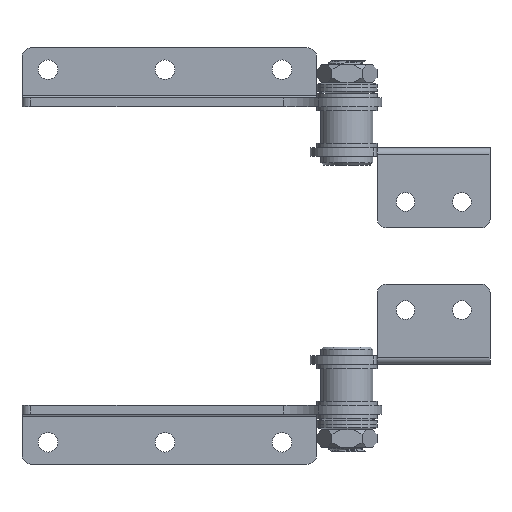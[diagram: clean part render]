
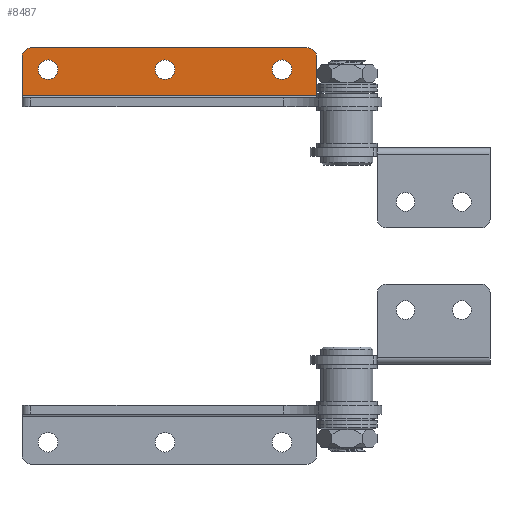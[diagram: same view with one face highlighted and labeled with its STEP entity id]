
A CAD part, front view. The second image highlights one B-rep face of the part: STEP entity #8487.
In plain terms, the highlighted planar face has unit normal (0, -1, 0).
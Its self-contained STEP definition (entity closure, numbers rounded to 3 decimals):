
#83 = DIRECTION ( 'NONE',  ( 0., 1., 0. ) ) ;
#104 = LINE ( 'NONE', #6759, #7544 ) ;
#119 = EDGE_CURVE ( 'NONE', #21223, #14027, #104, .T. ) ;
#329 = VERTEX_POINT ( 'NONE', #7403 ) ;
#347 = DIRECTION ( 'NONE',  ( 0., 0., -1. ) ) ;
#390 = DIRECTION ( 'NONE',  ( 0., 0., -1. ) ) ;
#412 = AXIS2_PLACEMENT_3D ( 'NONE', #10323, #83, #11766 ) ;
#627 = ORIENTED_EDGE ( 'NONE', *, *, #3046, .F. ) ;
#887 = EDGE_LOOP ( 'NONE', ( #18347, #21267 ) ) ;
#1093 = ORIENTED_EDGE ( 'NONE', *, *, #6389, .F. ) ;
#1119 = VERTEX_POINT ( 'NONE', #14659 ) ;
#1426 = VERTEX_POINT ( 'NONE', #20943 ) ;
#1623 = VERTEX_POINT ( 'NONE', #13610 ) ;
#1708 = DIRECTION ( 'NONE',  ( 0., -1., 0. ) ) ;
#1728 = CIRCLE ( 'NONE', #19146, 2.25 ) ;
#2241 = DIRECTION ( 'NONE',  ( 0., 1., 0. ) ) ;
#2460 = AXIS2_PLACEMENT_3D ( 'NONE', #8372, #6926, #13389 ) ;
#2605 = EDGE_CURVE ( 'NONE', #20611, #1119, #21201, .T. ) ;
#3046 = EDGE_CURVE ( 'NONE', #329, #1623, #1728, .T. ) ;
#3093 = DIRECTION ( 'NONE',  ( 0., 0., -1. ) ) ;
#3138 = FACE_BOUND ( 'NONE', #7831, .T. ) ;
#3449 = FACE_BOUND ( 'NONE', #19935, .T. ) ;
#3554 = CIRCLE ( 'NONE', #412, 2. ) ;
#3677 = CARTESIAN_POINT ( 'NONE',  ( -15., 8., 68. ) ) ;
#3920 = ORIENTED_EDGE ( 'NONE', *, *, #10171, .F. ) ;
#3941 = CARTESIAN_POINT ( 'NONE',  ( -73., 8., 73. ) ) ;
#4031 = CARTESIAN_POINT ( 'NONE',  ( -75., 8., 62. ) ) ;
#4142 = CARTESIAN_POINT ( 'NONE',  ( -69., 8., 65.75 ) ) ;
#4860 = FACE_OUTER_BOUND ( 'NONE', #17581, .T. ) ;
#5081 = AXIS2_PLACEMENT_3D ( 'NONE', #3677, #13119, #19766 ) ;
#5173 = FACE_BOUND ( 'NONE', #887, .T. ) ;
#5438 = DIRECTION ( 'NONE',  ( -1., 0., 0. ) ) ;
#5730 = CARTESIAN_POINT ( 'NONE',  ( -73., 8., 71. ) ) ;
#6280 = EDGE_CURVE ( 'NONE', #1426, #17213, #16728, .T. ) ;
#6389 = EDGE_CURVE ( 'NONE', #20611, #7780, #10096, .T. ) ;
#6396 = CARTESIAN_POINT ( 'NONE',  ( -75., 8., 73. ) ) ;
#6453 = CARTESIAN_POINT ( 'NONE',  ( -42., 8., 65.75 ) ) ;
#6759 = CARTESIAN_POINT ( 'NONE',  ( -7., 8., 59.5 ) ) ;
#6926 = DIRECTION ( 'NONE',  ( 0., -1., 0. ) ) ;
#7317 = DIRECTION ( 'NONE',  ( 0., -1., 0. ) ) ;
#7403 = CARTESIAN_POINT ( 'NONE',  ( -15., 8., 65.75 ) ) ;
#7544 = VECTOR ( 'NONE', #20074, 1000. ) ;
#7780 = VERTEX_POINT ( 'NONE', #3941 ) ;
#7831 = EDGE_LOOP ( 'NONE', ( #21370, #15577 ) ) ;
#8372 = CARTESIAN_POINT ( 'NONE',  ( 0., 8., 50. ) ) ;
#8479 = PLANE ( 'NONE',  #2460 ) ;
#8487 = ADVANCED_FACE ( 'NONE', ( #3449, #5173, #3138, #4860 ), #8479, .T. ) ;
#8946 = EDGE_CURVE ( 'NONE', #21321, #10255, #16080, .T. ) ;
#9891 = CARTESIAN_POINT ( 'NONE',  ( -75., 8., 71. ) ) ;
#10096 = CIRCLE ( 'NONE', #17421, 2. ) ;
#10171 = EDGE_CURVE ( 'NONE', #21223, #1119, #12011, .T. ) ;
#10255 = VERTEX_POINT ( 'NONE', #20631 ) ;
#10323 = CARTESIAN_POINT ( 'NONE',  ( -9., 8., 71. ) ) ;
#10432 = CARTESIAN_POINT ( 'NONE',  ( -42., 8., 68. ) ) ;
#10744 = VERTEX_POINT ( 'NONE', #15500 ) ;
#10885 = VECTOR ( 'NONE', #16448, 1000. ) ;
#11058 = CIRCLE ( 'NONE', #11775, 2.25 ) ;
#11766 = DIRECTION ( 'NONE',  ( 0., 0., 1. ) ) ;
#11775 = AXIS2_PLACEMENT_3D ( 'NONE', #10432, #18411, #21576 ) ;
#12011 = LINE ( 'NONE', #4031, #20253 ) ;
#12396 = DIRECTION ( 'NONE',  ( 0., 0., 1. ) ) ;
#12772 = DIRECTION ( 'NONE',  ( 0., 0., -1. ) ) ;
#12927 = EDGE_CURVE ( 'NONE', #10744, #14027, #3554, .T. ) ;
#13119 = DIRECTION ( 'NONE',  ( 0., -1., 0. ) ) ;
#13149 = ORIENTED_EDGE ( 'NONE', *, *, #119, .T. ) ;
#13195 = EDGE_CURVE ( 'NONE', #10744, #7780, #14576, .T. ) ;
#13226 = VECTOR ( 'NONE', #3093, 1000. ) ;
#13389 = DIRECTION ( 'NONE',  ( 0., 0., 1. ) ) ;
#13610 = CARTESIAN_POINT ( 'NONE',  ( -15., 8., 70.25 ) ) ;
#13970 = DIRECTION ( 'NONE',  ( 0., 0., -1. ) ) ;
#14027 = VERTEX_POINT ( 'NONE', #14522 ) ;
#14300 = CARTESIAN_POINT ( 'NONE',  ( -69., 8., 68. ) ) ;
#14519 = AXIS2_PLACEMENT_3D ( 'NONE', #14300, #20849, #12772 ) ;
#14522 = CARTESIAN_POINT ( 'NONE',  ( -7., 8., 71. ) ) ;
#14576 = LINE ( 'NONE', #6396, #10885 ) ;
#14659 = CARTESIAN_POINT ( 'NONE',  ( -75., 8., 62. ) ) ;
#14685 = AXIS2_PLACEMENT_3D ( 'NONE', #17156, #19005, #347 ) ;
#15456 = CARTESIAN_POINT ( 'NONE',  ( -69., 8., 68. ) ) ;
#15500 = CARTESIAN_POINT ( 'NONE',  ( -9., 8., 73. ) ) ;
#15577 = ORIENTED_EDGE ( 'NONE', *, *, #6280, .F. ) ;
#16080 = CIRCLE ( 'NONE', #14685, 2.25 ) ;
#16276 = CIRCLE ( 'NONE', #14519, 2.25 ) ;
#16448 = DIRECTION ( 'NONE',  ( -1., 0., 0. ) ) ;
#16728 = CIRCLE ( 'NONE', #19507, 2.25 ) ;
#16946 = CIRCLE ( 'NONE', #5081, 2.25 ) ;
#17156 = CARTESIAN_POINT ( 'NONE',  ( -42., 8., 68. ) ) ;
#17169 = EDGE_CURVE ( 'NONE', #17213, #1426, #16276, .T. ) ;
#17213 = VERTEX_POINT ( 'NONE', #4142 ) ;
#17421 = AXIS2_PLACEMENT_3D ( 'NONE', #5730, #2241, #12396 ) ;
#17581 = EDGE_LOOP ( 'NONE', ( #19608, #1093, #20950, #3920, #13149, #20416 ) ) ;
#17937 = CARTESIAN_POINT ( 'NONE',  ( -75., 8., 59.5 ) ) ;
#17998 = EDGE_CURVE ( 'NONE', #10255, #21321, #11058, .T. ) ;
#18347 = ORIENTED_EDGE ( 'NONE', *, *, #8946, .F. ) ;
#18411 = DIRECTION ( 'NONE',  ( 0., -1., 0. ) ) ;
#18999 = CARTESIAN_POINT ( 'NONE',  ( -7., 8., 62. ) ) ;
#19005 = DIRECTION ( 'NONE',  ( 0., -1., 0. ) ) ;
#19146 = AXIS2_PLACEMENT_3D ( 'NONE', #19505, #7317, #13970 ) ;
#19297 = EDGE_CURVE ( 'NONE', #1623, #329, #16946, .T. ) ;
#19505 = CARTESIAN_POINT ( 'NONE',  ( -15., 8., 68. ) ) ;
#19507 = AXIS2_PLACEMENT_3D ( 'NONE', #15456, #1708, #390 ) ;
#19608 = ORIENTED_EDGE ( 'NONE', *, *, #13195, .T. ) ;
#19766 = DIRECTION ( 'NONE',  ( 0., 0., -1. ) ) ;
#19797 = ORIENTED_EDGE ( 'NONE', *, *, #19297, .F. ) ;
#19935 = EDGE_LOOP ( 'NONE', ( #627, #19797 ) ) ;
#20074 = DIRECTION ( 'NONE',  ( 0., 0., 1. ) ) ;
#20253 = VECTOR ( 'NONE', #5438, 1000. ) ;
#20416 = ORIENTED_EDGE ( 'NONE', *, *, #12927, .F. ) ;
#20611 = VERTEX_POINT ( 'NONE', #9891 ) ;
#20631 = CARTESIAN_POINT ( 'NONE',  ( -42., 8., 70.25 ) ) ;
#20849 = DIRECTION ( 'NONE',  ( 0., -1., 0. ) ) ;
#20943 = CARTESIAN_POINT ( 'NONE',  ( -69., 8., 70.25 ) ) ;
#20950 = ORIENTED_EDGE ( 'NONE', *, *, #2605, .T. ) ;
#21201 = LINE ( 'NONE', #17937, #13226 ) ;
#21223 = VERTEX_POINT ( 'NONE', #18999 ) ;
#21267 = ORIENTED_EDGE ( 'NONE', *, *, #17998, .F. ) ;
#21321 = VERTEX_POINT ( 'NONE', #6453 ) ;
#21370 = ORIENTED_EDGE ( 'NONE', *, *, #17169, .F. ) ;
#21576 = DIRECTION ( 'NONE',  ( 0., 0., -1. ) ) ;
